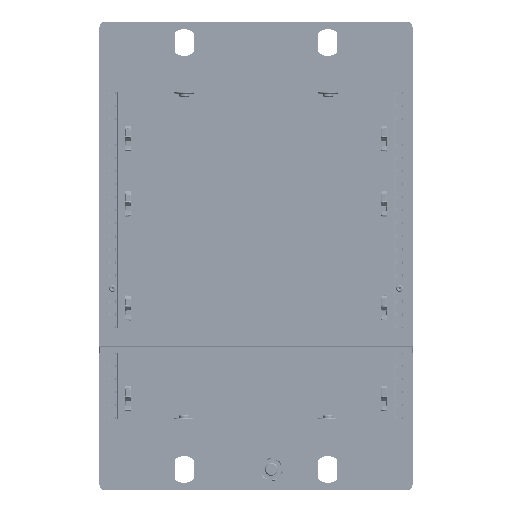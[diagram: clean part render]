
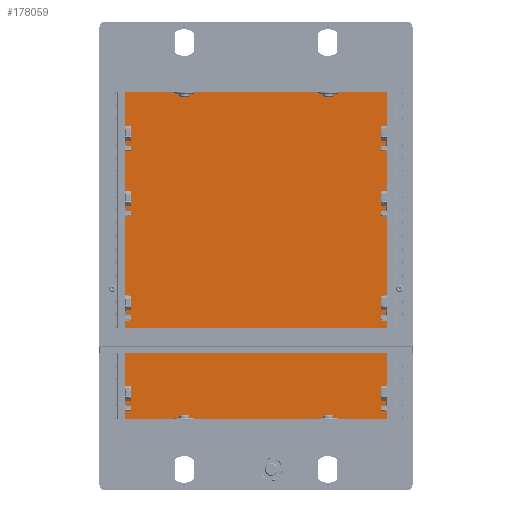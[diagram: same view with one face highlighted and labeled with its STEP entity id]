
A CAD part, top view. The second image highlights one B-rep face of the part: STEP entity #178059.
In plain terms, the highlighted planar face has unit normal (0, 0, 1).
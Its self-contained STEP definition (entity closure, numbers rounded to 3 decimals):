
#9341=PLANE('',#194310);
#17114=FACE_OUTER_BOUND('',#27547,.T.);
#27547=EDGE_LOOP('',(#149060,#149061,#149062,#149063));
#51983=LINE('',#305329,#66701);
#51984=LINE('',#305331,#66702);
#51985=LINE('',#305333,#66703);
#51986=LINE('',#305334,#66704);
#66701=VECTOR('',#239958,10.);
#66702=VECTOR('',#239959,10.);
#66703=VECTOR('',#239960,10.);
#66704=VECTOR('',#239961,10.);
#81845=VERTEX_POINT('',#305327);
#81846=VERTEX_POINT('',#305328);
#81847=VERTEX_POINT('',#305330);
#81848=VERTEX_POINT('',#305332);
#104875=EDGE_CURVE('',#81845,#81846,#51983,.T.);
#104876=EDGE_CURVE('',#81846,#81847,#51984,.T.);
#104877=EDGE_CURVE('',#81847,#81848,#51985,.T.);
#104878=EDGE_CURVE('',#81845,#81848,#51986,.T.);
#149060=ORIENTED_EDGE('',*,*,#104875,.T.);
#149061=ORIENTED_EDGE('',*,*,#104876,.T.);
#149062=ORIENTED_EDGE('',*,*,#104877,.T.);
#149063=ORIENTED_EDGE('',*,*,#104878,.F.);
#178059=ADVANCED_FACE('',(#17114),#9341,.T.);
#194310=AXIS2_PLACEMENT_3D('',#305326,#239956,#239957);
#239956=DIRECTION('center_axis',(0.,0.,
1.));
#239957=DIRECTION('ref_axis',(1.,0.,0.));
#239958=DIRECTION('',(1.,0.,0.));
#239959=DIRECTION('',(0.,1.,0.));
#239960=DIRECTION('',(-1.,0.,0.));
#239961=DIRECTION('',(0.,1.,0.));
#305326=CARTESIAN_POINT('Origin',(4.446,154.805,25.252));
#305327=CARTESIAN_POINT('',(-55.454,89.705,25.252));
#305328=CARTESIAN_POINT('',(64.346,89.705,25.252));
#305329=CARTESIAN_POINT('',(-25.504,89.705,25.252));
#305330=CARTESIAN_POINT('',(64.346,219.905,25.252));
#305331=CARTESIAN_POINT('',(64.346,154.805,25.252));
#305332=CARTESIAN_POINT('',(-55.454,219.905,25.252));
#305333=CARTESIAN_POINT('',(-25.504,219.905,25.252));
#305334=CARTESIAN_POINT('',(-55.454,154.805,25.252));
